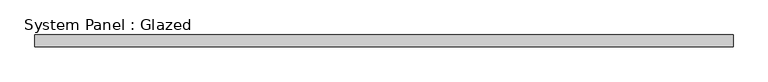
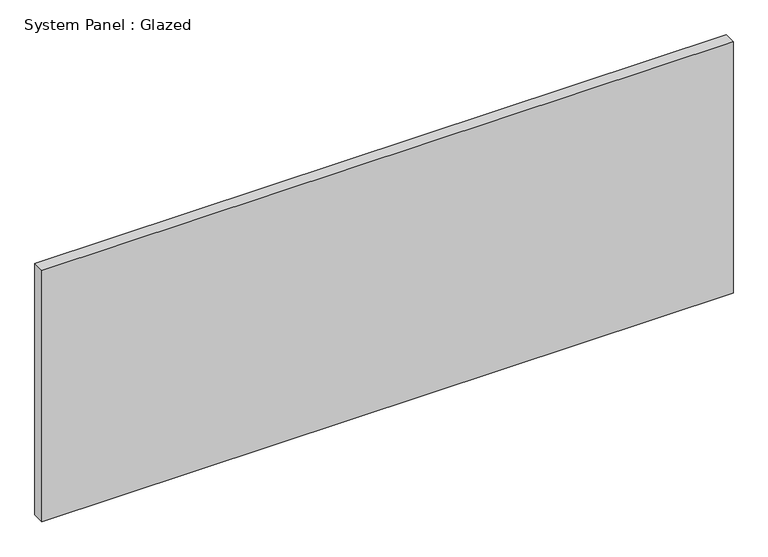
"""IFC4 building model written with IfcOpenShell, lengths in millimetres: plate geometry, System Panel : Glazed."""

from ifc_helpers import new_model, si_unit, origin, origin_with_axes, place, context, project, spatial, polyline, outline, extrude, source, transform, mapped, element, save


def system_panel_glazed_efc33f1d(model_context):
    return source(origin(), model_context, "Body", "SweptSolid", [
        extrude(outline(polyline([(742.95, -44.45), (-742.95, -44.45), (-742.95, -19.05), (742.95, -19.05), (742.95, -44.45)])), origin_with_axes(), (0.0, 0.0, 1.0), 571.5),
    ])


if __name__ == "__main__":
    model = new_model("IFC4")
    model_context = context("Model", 3, world=origin())
    ifc_project = project(units=[si_unit("LENGTHUNIT", "METRE", prefix="MILLI")], contexts=[model_context])
    site = spatial("IfcSite", under=ifc_project)
    building = spatial("IfcBuilding", under=site)
    placement = place(None, origin())
    system_panel_glazed_shape = system_panel_glazed_efc33f1d(model_context)
    element("IfcPlate", 1, ObjectType="System Panel : Glazed", at=placement, inside=building, context=model_context, shape_type="MappedRepresentation", body=[
        mapped(system_panel_glazed_shape, transform((0.0, 0.0, 0.0), x_axis=(1.0, 0.0, 0.0), y_axis=(0.0, 1.0, 0.0), z_axis=(0.0, 0.0, 1.0))),
    ])
    save(model, "model.ifc")
